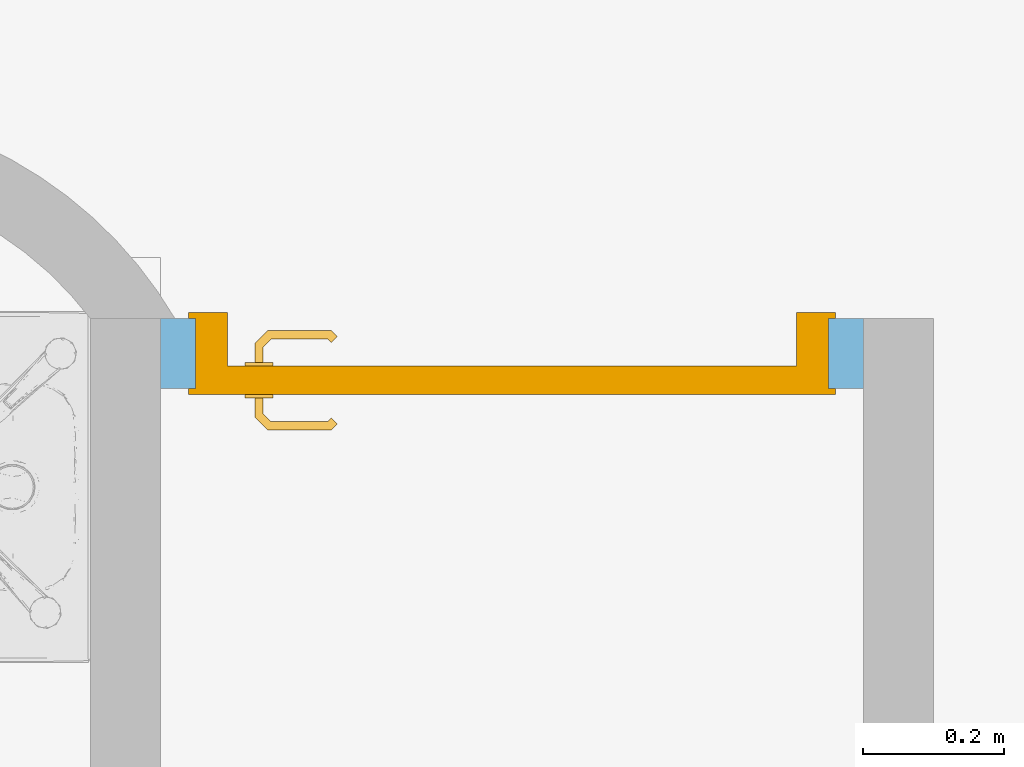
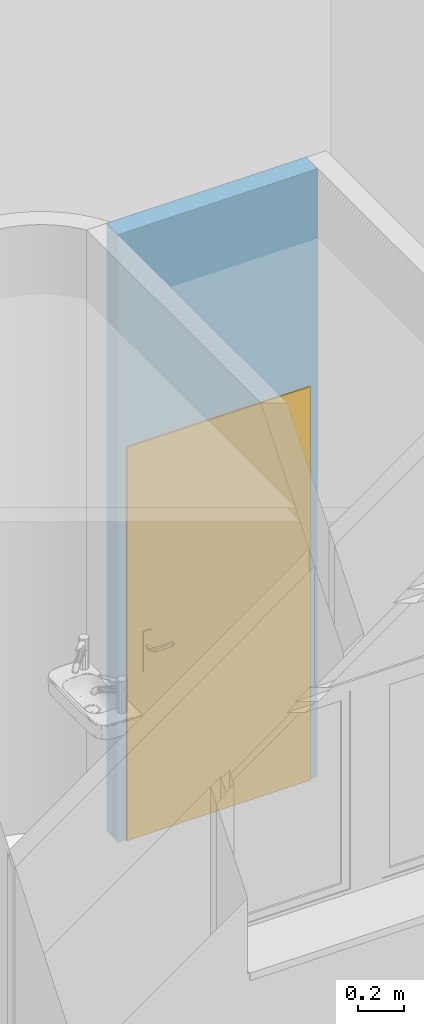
# One storey, part 83 of 137: 1 door, 1 opening, plus 1 element that does not belong to this part.
"""IFC2X3 building model written with IfcOpenShell, lengths in centimetres."""

from ifc_helpers import new_model, entity, si_unit, converted_unit, derived_unit, direction, frame, frame_2d, origin, place, context, subcontext, project, spatial, rectangle, extrude, faceted_brep, source, transform, mapped, material, material_list, layer, layer_set, layer_usage, type_object, type_shapes, element, fill, save


model = new_model("IFC2X3")

# Units and contexts
model_context = context("Model", 3, precision=0.001, world=origin(), true_north=direction((6.12303176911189e-17, 1.0)))
body_context = subcontext(model_context, "Body", "Model", "MODEL_VIEW")
ifc_project = project(units=[si_unit("LENGTHUNIT", "METRE", prefix="CENTI"), si_unit("AREAUNIT", "SQUARE_METRE"), si_unit("VOLUMEUNIT", "CUBIC_METRE"), converted_unit("PLANEANGLEUNIT", "DEGREE", entity("IfcRatioMeasure", 0.0174532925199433), si_unit("PLANEANGLEUNIT", "RADIAN"), dimensions=[0, 0, 0, 0, 0, 0, 0]), si_unit("MASSUNIT", "GRAM", prefix="KILO"), si_unit("TIMEUNIT", "SECOND"), si_unit("FREQUENCYUNIT", "HERTZ"), si_unit("THERMODYNAMICTEMPERATUREUNIT", "DEGREE_CELSIUS"), derived_unit("THERMALTRANSMITTANCEUNIT", [(si_unit("MASSUNIT", "GRAM", prefix="KILO"), 1), (si_unit("THERMODYNAMICTEMPERATUREUNIT", "KELVIN"), -1), (si_unit("TIMEUNIT", "SECOND"), -3)]), derived_unit("VOLUMETRICFLOWRATEUNIT", [(si_unit("LENGTHUNIT", "METRE"), 3), (si_unit("TIMEUNIT", "SECOND"), -1)]), si_unit("ELECTRICCURRENTUNIT", "AMPERE"), si_unit("ELECTRICVOLTAGEUNIT", "VOLT"), si_unit("POWERUNIT", "WATT"), si_unit("FORCEUNIT", "NEWTON", prefix="KILO"), si_unit("ILLUMINANCEUNIT", "LUX"), si_unit("LUMINOUSFLUXUNIT", "LUMEN"), si_unit("LUMINOUSINTENSITYUNIT", "CANDELA"), derived_unit("USERDEFINED", [(si_unit("MASSUNIT", "GRAM", prefix="KILO"), -1), (si_unit("LENGTHUNIT", "METRE"), -2), (si_unit("TIMEUNIT", "SECOND"), 3), (si_unit("LUMINOUSFLUXUNIT", "LUMEN"), 1)]), derived_unit("LINEARVELOCITYUNIT", [(si_unit("LENGTHUNIT", "METRE"), 1), (si_unit("TIMEUNIT", "SECOND"), -1)]), si_unit("PRESSUREUNIT", "PASCAL"), derived_unit("USERDEFINED", [(si_unit("LENGTHUNIT", "METRE"), -2), (si_unit("MASSUNIT", "GRAM", prefix="KILO"), 1), (si_unit("TIMEUNIT", "SECOND"), -2)])], contexts=[model_context])

# Site, building, storey
site_placement = place(None, frame((8.62739174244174, -249.285249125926, 0.0)))
site = spatial("IfcSite", under=ifc_project, at=site_placement, Name="Default", CompositionType="ELEMENT")
building_placement = place(site_placement, origin())
building = spatial("IfcBuilding", under=site, at=building_placement, CompositionType="ELEMENT")
storey_placement = place(building_placement, origin())
storey = spatial("IfcBuildingStorey", under=building, at=storey_placement, Name="RDC", CompositionType="ELEMENT", Elevation=-8.82465566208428e-11)

# Wall, opening, door
ifc_material_1 = material(Name="Plâtre")
ifc_layer = layer(ifc_material_1, 10.0)
ifc_layer_set = layer_set([ifc_layer], Name="Mur de base:PLA 10")
ifc_layer_usage = layer_usage(ifc_layer_set, "AXIS2", "NEGATIVE", 5.0)
wall_type = type_object("IfcWallType", Name="Mur de base:PLA 10", PredefinedType="STANDARD", material=ifc_layer_set)
wall_placement = place(storey_placement, frame((2582.9048278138, 41.9802081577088, 0.0), z_axis=(0.0, 0.0, 1.0), x_axis=(-1.0, 0.0, 0.0)))
wall = element("IfcWallStandardCase", 1, at=wall_placement, inside=storey, type_object=wall_type, material=ifc_layer_usage, Name="Mur de base:PLA 10", ObjectType="Mur de base:PLA 10", context=body_context, shape_type="SweptSolid", body=[
    extrude(rectangle(XDim=99.9999999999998, YDim=10.0, at=frame_2d((49.9999999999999, -1.77635683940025e-15), x_axis=(-1.0, 0.0))), origin(), (0.0, 0.0, 1.0), 322.000000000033),
])
opening_placement = place(wall_placement, frame((5.0, -5.0, 0.0)))
opening = element("IfcOpeningElement", 2, at=opening_placement, cuts=wall, Name="Simple(R)_bois_mu:83 x 204 cm:1", ObjectType="Opening", context=body_context, shape_type="SweptSolid", body=[
    extrude(rectangle(XDim=207.499999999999, YDim=89.9999999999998, at=frame_2d((103.749999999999, 45.0), x_axis=(1.0, 0.0))), frame((0.0, 0.0, 0.0), z_axis=(0.0, 1.0, 0.0), x_axis=(0.0, 0.0, 1.0)), (0.0, 0.0, 1.0), 10.0),
])
ifc_material_2 = material(Name="Porte - Poignée")
ifc_material_3 = material(Name="Porte - Cadre")
ifc_material_4 = material(Name="Porte - Panneau")
ifc_material_list_1 = material_list([ifc_material_2, ifc_material_3, ifc_material_4])
ifc_material_list_2 = material_list([ifc_material_2, ifc_material_3, ifc_material_4])
door_style = type_object("IfcDoorStyle", Name="83 x 204 cm", ConstructionType="NOTDEFINED", OperationType="SINGLE_SWING_RIGHT", ParameterTakesPrecedence=False, Sizeable=False, material=ifc_material_list_2)
shared_shape = source(origin(), body_context, "Body", "Brep", [
    faceted_brep([(8.79747013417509, 3.69999999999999, 100.778044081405), (8.39999999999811, 3.69999999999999, 100.699999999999), (8.39999999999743, 3.69999999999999, 99.2999999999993), (8.7974701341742, 3.69999999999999, 99.2219559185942), (9.20252986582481, 3.69999999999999, 99.2219559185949), (9.60000000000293, 3.69999999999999, 99.3000000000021), (9.60000000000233, 3.69999999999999, 100.699999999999), (9.20252986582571, 3.69999999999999, 100.778044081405), (9.60000000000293, 5.94852045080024, 99.3000000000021), (9.60000000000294, 5.94852045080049, 100.699999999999), (9.20252986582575, 6.1131579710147, 100.778044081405), (10.5838906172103, 7.49451872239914, 100.778044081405), (10.4161093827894, 7.89957845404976, 100.778044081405), (8.79747013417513, 6.2809392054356, 100.778044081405), (19.5684749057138, 6.84673156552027, 100.778044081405), (19.8548953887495, 7.13315204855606, 100.778044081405), (19.0884689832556, 7.89957845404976, 100.778044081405), (18.9206877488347, 7.49451872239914, 100.778044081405), (8.39999999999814, 6.44557672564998, 100.699999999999), (8.39999999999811, 6.44557672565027, 99.2999999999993), (8.79747013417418, 6.28093920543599, 99.2219559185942), (10.416109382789, 7.8995784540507, 99.2219559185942), (10.5838906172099, 7.49451872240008, 99.2219559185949), (9.20252986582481, 6.11315797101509, 99.2219559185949), (19.8548953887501, 7.1331520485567, 99.2219559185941), (19.5684749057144, 6.84673156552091, 99.2219559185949), (18.9206877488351, 7.49451872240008, 99.2219559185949), (19.088468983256, 7.8995784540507, 99.2219559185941), (10.7485281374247, 7.09704858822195, 99.3000000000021), (10.7485281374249, 7.09704858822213, 100.699999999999), (10.2514718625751, 8.29704858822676, 100.699999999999), (10.2514718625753, 8.29704858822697, 99.2999999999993), (14.7522904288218, 7.09704858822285, 99.3000000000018), (18.7560502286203, 7.09704858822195, 99.3000000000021), (18.7560502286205, 7.09704858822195, 100.699999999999), (14.7522891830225, 7.09704858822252, 100.699999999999), (14.7522891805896, 7.71249275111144, 100.787811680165), (19.2531065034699, 8.29704858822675, 100.699999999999), (15.260057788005, 8.29704858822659, 100.699999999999), (19.2531065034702, 8.29704858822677, 99.2999999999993), (14.2445206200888, 8.29704858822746, 99.2999999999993), (14.7522892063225, 7.71249274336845, 99.2121883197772), (19.2874210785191, 6.56567773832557, 99.3000000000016), (20.1359492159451, 7.41420587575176, 99.2999999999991), (20.1359492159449, 7.4142058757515, 100.699999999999), (19.2874210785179, 6.5656777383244, 100.699999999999)], [[[0, 1, 2, 3, 4, 5, 6, 7]], [[6, 5, 8, 9]], [[9, 10, 7, 6]], [[10, 11, 12, 13, 0, 7]], [[14, 15, 16, 17]], [[13, 18, 1, 0]], [[2, 1, 18, 19]], [[19, 20, 3, 2]], [[20, 21, 22, 23, 4, 3]], [[24, 25, 26, 27]], [[23, 8, 5, 4]], [[9, 8, 28, 29]], [[29, 11, 10, 9]], [[12, 30, 18, 13]], [[19, 18, 30, 31]], [[31, 21, 20, 19]], [[22, 28, 8, 23]], [[29, 28, 32, 33, 34, 35]], [[11, 35, 36]], [[16, 37, 38]], [[30, 12, 38]], [[38, 12, 36]], [[36, 35, 17]], [[17, 16, 36]], [[35, 11, 29]], [[34, 17, 35]], [[11, 36, 12]], [[38, 36, 16]], [[31, 30, 38, 37, 39, 40]], [[40, 41, 21]], [[41, 40, 27]], [[21, 31, 40]], [[39, 27, 40]], [[41, 32, 22]], [[22, 21, 41]], [[26, 32, 41]], [[28, 22, 32]], [[32, 26, 33]], [[26, 41, 27]], [[42, 25, 24, 43, 44, 15, 14, 45]], [[34, 33, 42, 45]], [[45, 14, 17, 34]], [[15, 44, 37, 16]], [[39, 37, 44, 43]], [[43, 24, 27, 39]], [[25, 42, 33, 26]]]),
    faceted_brep([(8.79747013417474, -1.30000000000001, 100.778044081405), (9.20252986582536, -1.30000000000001, 100.778044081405), (9.60000000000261, -1.30000000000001, 100.699999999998), (9.60000000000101, -1.30000000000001, 99.3000000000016), (9.20252986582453, -1.30000000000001, 99.2219559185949), (8.79747013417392, -1.30000000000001, 99.2219559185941), (8.39999999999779, -1.30000000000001, 99.2999999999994), (8.39999999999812, -1.30000000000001, 100.699999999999), (8.3999999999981, -4.06509507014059, 100.699999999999), (8.79747013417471, -3.90045754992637, 100.778044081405), (10.4023585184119, -5.50534593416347, 100.778044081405), (10.5701397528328, -5.10028620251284, 100.778044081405), (9.20252986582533, -3.73267631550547, 100.778044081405), (19.8521810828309, -4.73891952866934, 100.778044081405), (19.5657605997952, -4.4524990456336, 100.778044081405), (18.917973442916, -5.10028620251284, 100.778044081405), (19.0857546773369, -5.50534593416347, 100.778044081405), (9.60000000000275, -3.56803879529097, 100.699999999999), (9.60000000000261, -3.56803879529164, 99.3000000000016), (9.20252986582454, -3.7326763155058, 99.2219559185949), (10.5701397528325, -5.10028620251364, 99.2219559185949), (10.4023585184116, -5.50534593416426, 99.2219559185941), (8.79747013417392, -3.9004575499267, 99.2219559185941), (19.5657605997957, -4.45249904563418, 99.2219559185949), (19.8521810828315, -4.73891952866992, 99.2219559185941), (19.0857546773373, -5.50534593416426, 99.2219559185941), (18.9179734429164, -5.10028620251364, 99.2219559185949), (8.39999999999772, -4.06509507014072, 99.2999999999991), (10.2377209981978, -5.90281606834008, 100.699999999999), (10.7347772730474, -4.70281606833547, 100.699999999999), (10.7347772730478, -4.70281606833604, 99.3000000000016), (10.2377209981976, -5.90281606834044, 99.2999999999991), (14.2307697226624, -5.90281606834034, 100.699999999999), (14.7440566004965, -5.31828027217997, 100.787811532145), (19.2503921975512, -5.90281606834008, 100.699999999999), (14.7440565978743, -4.70281606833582, 100.699999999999), (18.7533359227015, -4.70281606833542, 100.699999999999), (18.7533359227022, -4.70281606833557, 99.3000000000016), (14.7440563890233, -4.70281606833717, 99.3000000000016), (14.7440565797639, -5.31828027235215, 99.2121884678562), (19.2503921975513, -5.90281606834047, 99.2999999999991), (15.2573433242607, -5.90281606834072, 99.2999999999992), (19.2847067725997, -4.1714452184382, 100.699999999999), (20.1332349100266, -5.01997335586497, 100.699999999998), (20.133234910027, -5.01997335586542, 99.2999999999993), (19.2847067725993, -4.17144521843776, 99.3000000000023)], [[[0, 1, 2, 3, 4, 5, 6, 7]], [[8, 9, 0, 7]], [[9, 10, 11, 12, 1, 0]], [[13, 14, 15, 16]], [[12, 17, 2, 1]], [[3, 2, 17, 18]], [[18, 19, 4, 3]], [[19, 20, 21, 22, 5, 4]], [[23, 24, 25, 26]], [[22, 27, 6, 5]], [[7, 6, 27, 8]], [[28, 10, 9, 8]], [[11, 29, 17, 12]], [[18, 17, 29, 30]], [[30, 20, 19, 18]], [[21, 31, 27, 22]], [[8, 27, 31, 28]], [[32, 33, 10]], [[33, 32, 16]], [[10, 28, 32]], [[34, 16, 32]], [[33, 35, 11]], [[11, 10, 33]], [[15, 35, 33]], [[29, 11, 35]], [[35, 15, 36]], [[15, 33, 16]], [[30, 29, 35, 36, 37, 38]], [[20, 38, 39]], [[25, 40, 41]], [[31, 21, 41]], [[41, 21, 39]], [[39, 38, 26]], [[26, 25, 39]], [[38, 20, 30]], [[37, 26, 38]], [[20, 39, 21]], [[41, 39, 25]], [[28, 31, 41, 40, 34, 32]], [[42, 14, 13, 43, 44, 24, 23, 45]], [[43, 13, 16, 34]], [[14, 42, 36, 15]], [[37, 36, 42, 45]], [[45, 23, 26, 37]], [[24, 44, 40, 25]], [[34, 40, 44, 43]]]),
    faceted_brep([(10.0352761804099, 3.19999999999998, 86.6003983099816), (11.0, 3.19999999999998, 87.0), (11.0, 3.19999999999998, 108.0), (10.0352761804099, 3.19999999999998, 108.399601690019), (9.0, 3.19999999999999, 108.535898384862), (7.96472381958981, 3.19999999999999, 108.399601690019), (7.0, 3.19999999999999, 108.0), (7.0, 3.19999999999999, 87.0), (7.9647238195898, 3.19999999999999, 86.6003983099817), (9.0, 3.19999999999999, 86.4641016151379), (10.0352761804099, 3.69999999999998, 108.399601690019), (11.0, 3.69999999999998, 108.0), (11.0, 3.69999999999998, 87.0), (10.0352761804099, 3.69999999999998, 86.6003983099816), (9.0, 3.69999999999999, 86.4641016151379), (7.96472381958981, 3.69999999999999, 86.6003983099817), (7.0, 3.69999999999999, 87.0), (7.0, 3.69999999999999, 108.0), (7.96472381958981, 3.69999999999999, 108.399601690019), (9.0, 3.69999999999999, 108.535898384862)], [[[0, 1, 2, 3, 4, 5, 6, 7, 8, 9]], [[10, 11, 12, 13, 14, 15, 16, 17, 18, 19]], [[11, 10, 3, 2]], [[3, 10, 19, 4]], [[19, 18, 5, 4]], [[18, 17, 6, 5]], [[7, 6, 17, 16]], [[16, 15, 8, 7]], [[8, 15, 14, 9]], [[14, 13, 0, 9]], [[13, 12, 1, 0]], [[2, 1, 12, 11]]]),
    faceted_brep([(10.0352761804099, -1.30000000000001, 86.6003983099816), (11.0, -1.30000000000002, 87.0), (11.0, -1.30000000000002, 108.0), (10.0352761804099, -1.30000000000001, 108.399601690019), (9.0, -1.30000000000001, 108.535898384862), (7.96472381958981, -1.30000000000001, 108.399601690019), (7.0, -1.3, 108.0), (7.0, -1.3, 87.0), (7.96472381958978, -1.30000000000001, 86.6003983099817), (9.0, -1.30000000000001, 86.4641016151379), (10.0352761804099, -0.800000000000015, 108.399601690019), (11.0, -0.800000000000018, 108.0), (11.0, -0.800000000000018, 87.0), (10.0352761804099, -0.800000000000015, 86.6003983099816), (9.0, -0.800000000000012, 86.4641016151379), (7.96472381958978, -0.800000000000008, 86.6003983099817), (7.0, -0.800000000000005, 87.0), (7.0, -0.800000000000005, 108.0), (7.96472381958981, -0.800000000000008, 108.399601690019), (9.0, -0.800000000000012, 108.535898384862)], [[[0, 1, 2, 3, 4, 5, 6, 7, 8, 9]], [[10, 11, 12, 13, 14, 15, 16, 17, 18, 19]], [[16, 15, 8, 7]], [[8, 15, 14, 9]], [[14, 13, 0, 9]], [[13, 12, 1, 0]], [[2, 1, 12, 11]], [[11, 10, 3, 2]], [[3, 10, 19, 4]], [[19, 18, 5, 4]], [[18, 17, 6, 5]], [[7, 6, 17, 16]]]),
    faceted_brep([(0.0, 0.0, 0.0), (0.0, 10.0, 0.0), (-1.0, 10.0, 0.0), (-1.0, 10.8000000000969, 0.0), (4.4999999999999, 10.8000000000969, 0.0), (4.4999999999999, 3.2, 0.0), (3.4999999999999, 3.2, 0.0), (3.4999999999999, -0.799999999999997, 0.0), (-1.0, -0.799999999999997, 0.0), (-1.0, 0.0, 0.0), (0.0, 0.0, 207.499999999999), (0.0, 10.0, 207.499999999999), (90.0, 10.0, 207.499999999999), (90.0, 10.0, 0.0), (91.0, 10.0, 0.0), (91.0, 10.0, 208.499999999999), (-1.0, 10.0, 208.499999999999), (-1.0, 10.8000000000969, 208.499999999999), (91.0, 10.8000000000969, 208.499999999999), (91.0, 10.8000000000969, 0.0), (85.4999999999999, 10.8000000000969, 0.0), (85.4999999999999, 10.8000000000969, 203.0), (4.4999999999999, 10.8000000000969, 203.0), (4.4999999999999, 3.2, 203.0), (85.4999999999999, 3.2, 203.0), (85.4999999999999, 3.2, 0.0), (86.4999999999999, 3.2, 0.0), (86.4999999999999, 3.2, 204.0), (3.49999999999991, 3.2, 204.0), (3.49999999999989, -0.799999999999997, 204.0), (86.4999999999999, -0.799999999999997, 204.0), (86.4999999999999, -0.799999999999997, 0.0), (91.0, -0.799999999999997, 0.0), (91.0, -0.799999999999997, 208.499999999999), (-1.0, -0.799999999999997, 208.499999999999), (-1.0, 0.0, 208.499999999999), (91.0, 0.0, 208.499999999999), (91.0, 0.0, 0.0), (90.0, 0.0, 0.0), (90.0, 0.0, 207.499999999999)], [[[0, 1, 2, 3, 4, 5, 6, 7, 8, 9]], [[1, 0, 10, 11]], [[2, 1, 11, 12, 13, 14, 15, 16]], [[3, 2, 16, 17]], [[4, 3, 17, 18, 19, 20, 21, 22]], [[5, 4, 22, 23]], [[6, 5, 23, 24, 25, 26, 27, 28]], [[7, 6, 28, 29]], [[8, 7, 29, 30, 31, 32, 33, 34]], [[9, 8, 34, 35]], [[0, 9, 35, 36, 37, 38, 39, 10]], [[12, 39, 38, 13]], [[38, 37, 32, 31, 26, 25, 20, 19, 14, 13]], [[18, 15, 14, 19]], [[24, 21, 20, 25]], [[30, 27, 26, 31]], [[36, 33, 32, 37]], [[11, 10, 39, 12]], [[17, 16, 15, 18]], [[23, 22, 21, 24]], [[29, 28, 27, 30]], [[35, 34, 33, 36]]]),
    faceted_brep([(3.49999999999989, -0.799999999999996, 204.0), (3.4999999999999, -0.799999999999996, 0.0), (86.5, -0.799999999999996, 0.0), (86.5, -0.799999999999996, 204.0), (3.49999999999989, 3.2, 204.0), (86.4999999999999, 3.2, 204.0), (86.5, 3.2, 0.0), (3.4999999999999, 3.2, 0.0)], [[[0, 1, 2, 3]], [[4, 5, 6, 7]], [[1, 0, 4, 7]], [[2, 1, 7, 6]], [[3, 2, 6, 5]], [[0, 3, 5, 4]]]),
])
type_shapes(door_style, [shared_shape])
door_placement = place(opening_placement, frame((90.0, 10.0, 0.0), z_axis=(0.0, 0.0, 1.0), x_axis=(-1.0, 0.0, 0.0)))
door = element("IfcDoor", 3, at=door_placement, inside=storey, type_object=door_style, material=ifc_material_list_1, Name="Simple(R)_bois_mu:83 x 204 cm", ObjectType="83 x 204 cm", OverallHeight=207.499999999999, OverallWidth=89.9999999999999, context=body_context, shape_type="MappedRepresentation", body=[
    mapped(shared_shape, transform((0.0, 0.0, 0.0), scale=1.0)),
])
fill(opening, door)

save(model, "model.ifc")
